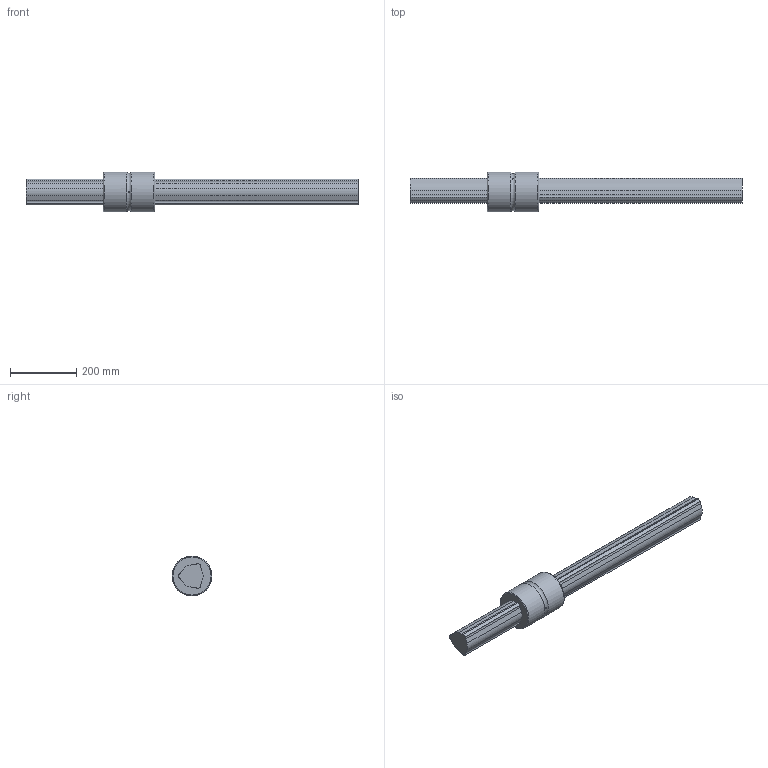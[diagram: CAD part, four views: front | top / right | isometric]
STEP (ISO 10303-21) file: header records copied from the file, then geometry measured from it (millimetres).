
FILE_DESCRIPTION(/* description */ ('STEP AP214'),/* implementation_level */ '2;1');
FILE_NAME(/* name */ 'LBST85+1000L(155232.50)',/* time_stamp */ '2024-09-04T12:56:58+02:00',/* author */ ('License CC BY-ND 4.0'),/* organization */ ('CADENAS'),/* preprocessor_version */ 'ST-DEVELOPER v19.3',/* originating_system */ 'PARTsolutions',/* authorisation */ ' ');
FILE_SCHEMA (('AUTOMOTIVE_DESIGN {1 0 10303 214 3 1 1}'));
Length unit declared in the file: millimetre
Products named in the file (3): LBST85+1000L(155232.50); LBST8511000 Spline Shaft; LBST85 Nut
Assembly tree (2 placements, depth 2):
  LBST85+1000L(155232.50)
    LBST8511000 Spline Shaft
    LBST85 Nut
Bounding box: 1000 x 120 x 120 mm (x, y, z)
Volume: 5084976.4 mm3; surface area: 364488.3 mm2
Topology: 3 solids, 3 shells, 57 faces, 148 edges, 99 vertices
Faces by surface type: cylinder 31, plane 22, torus 4
Full cylindrical faces by diameter (mm): 5 x3, 120 x2
Entity records: 1806 total; most frequent: CARTESIAN_POINT 351, DIRECTION 306, ORIENTED_EDGE 272, EDGE_CURVE 136, AXIS2_PLACEMENT_3D 118, VERTEX_POINT 94, LINE 70, VECTOR 70
